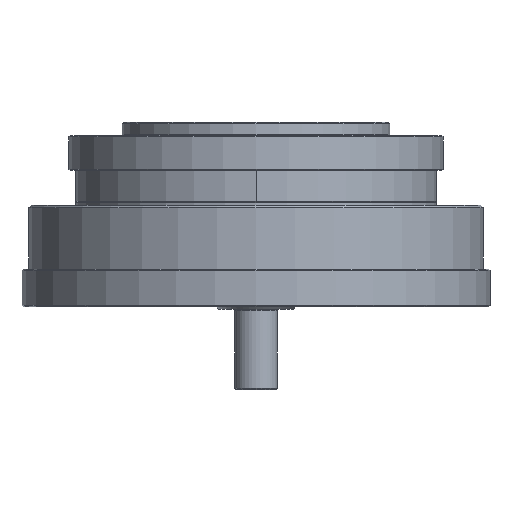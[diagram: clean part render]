
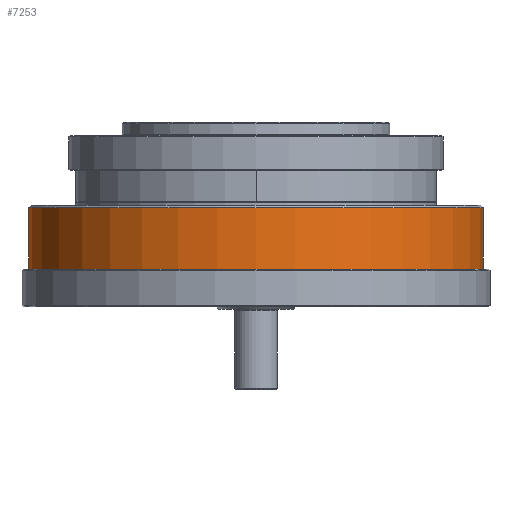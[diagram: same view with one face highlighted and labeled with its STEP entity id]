
A CAD part, front view. The second image highlights one B-rep face of the part: STEP entity #7253.
In plain terms, the highlighted cylindrical face has radius 85 mm (diameter 170 mm), a partial arc.
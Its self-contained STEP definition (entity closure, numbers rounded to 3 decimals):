
#14 = EDGE_LOOP ( 'NONE', ( #7543, #7610, #2224, #1867 ) ) ;
#643 = DIRECTION ( 'NONE',  ( -1., 0., 0. ) ) ;
#806 = CARTESIAN_POINT ( 'NONE',  ( 22.667, -0.202, 156. ) ) ;
#904 = DIRECTION ( 'NONE',  ( 0., 0., 1. ) ) ;
#945 = DIRECTION ( 'NONE',  ( 1., 0., 0. ) ) ;
#1816 = CARTESIAN_POINT ( 'NONE',  ( -62.333, -0.202, 156. ) ) ;
#1867 = ORIENTED_EDGE ( 'NONE', *, *, #5880, .T. ) ;
#2224 = ORIENTED_EDGE ( 'NONE', *, *, #3225, .T. ) ;
#2880 = CARTESIAN_POINT ( 'NONE',  ( -62.333, -0.202, 183. ) ) ;
#3108 = AXIS2_PLACEMENT_3D ( 'NONE', #3366, #3539, #643 ) ;
#3225 = EDGE_CURVE ( 'NONE', #5924, #9691, #5718, .T. ) ;
#3366 = CARTESIAN_POINT ( 'NONE',  ( 22.667, -0.202, 184. ) ) ;
#3389 = CARTESIAN_POINT ( 'NONE',  ( 22.667, -0.202, 183. ) ) ;
#3417 = DIRECTION ( 'NONE',  ( 0., 0., -1. ) ) ;
#3428 = DIRECTION ( 'NONE',  ( 1., 0., 0. ) ) ;
#3539 = DIRECTION ( 'NONE',  ( 0., 0., -1. ) ) ;
#3690 = LINE ( 'NONE', #9655, #3907 ) ;
#3907 = VECTOR ( 'NONE', #7503, 1000. ) ;
#3979 = VERTEX_POINT ( 'NONE', #9050 ) ;
#4580 = EDGE_CURVE ( 'NONE', #4750, #5924, #6901, .T. ) ;
#4750 = VERTEX_POINT ( 'NONE', #5284 ) ;
#4932 = CYLINDRICAL_SURFACE ( 'NONE', #3108, 85. ) ;
#5284 = CARTESIAN_POINT ( 'NONE',  ( 107.667, -0.202, 183. ) ) ;
#5285 = AXIS2_PLACEMENT_3D ( 'NONE', #806, #904, #945 ) ;
#5347 = VECTOR ( 'NONE', #7698, 1000. ) ;
#5718 = LINE ( 'NONE', #7753, #5347 ) ;
#5880 = EDGE_CURVE ( 'NONE', #9691, #3979, #6842, .T. ) ;
#5924 = VERTEX_POINT ( 'NONE', #2880 ) ;
#6042 = FACE_OUTER_BOUND ( 'NONE', #14, .T. ) ;
#6842 = CIRCLE ( 'NONE', #5285, 85. ) ;
#6901 = CIRCLE ( 'NONE', #7261, 85. ) ;
#7253 = ADVANCED_FACE ( 'NONE', ( #6042 ), #4932, .T. ) ;
#7261 = AXIS2_PLACEMENT_3D ( 'NONE', #3389, #3417, #3428 ) ;
#7503 = DIRECTION ( 'NONE',  ( 0., 0., -1. ) ) ;
#7543 = ORIENTED_EDGE ( 'NONE', *, *, #7891, .F. ) ;
#7610 = ORIENTED_EDGE ( 'NONE', *, *, #4580, .T. ) ;
#7698 = DIRECTION ( 'NONE',  ( 0., 0., -1. ) ) ;
#7753 = CARTESIAN_POINT ( 'NONE',  ( -62.333, -0.202, 184. ) ) ;
#7891 = EDGE_CURVE ( 'NONE', #4750, #3979, #3690, .T. ) ;
#9050 = CARTESIAN_POINT ( 'NONE',  ( 107.667, -0.202, 156. ) ) ;
#9655 = CARTESIAN_POINT ( 'NONE',  ( 107.667, -0.202, 184. ) ) ;
#9691 = VERTEX_POINT ( 'NONE', #1816 ) ;
